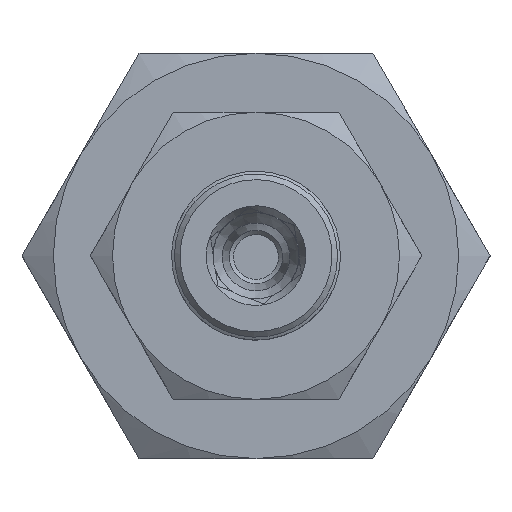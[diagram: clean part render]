
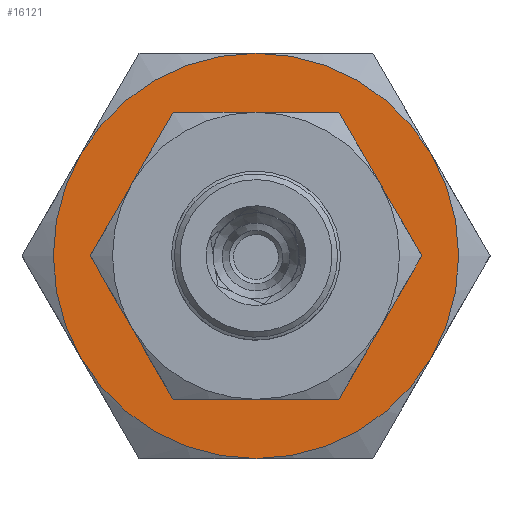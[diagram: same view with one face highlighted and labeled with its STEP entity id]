
A CAD part, top view. The second image highlights one B-rep face of the part: STEP entity #16121.
In plain terms, the highlighted planar face has unit normal (0, 0, 1).
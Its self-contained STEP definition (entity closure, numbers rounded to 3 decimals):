
#513 = VERTEX_POINT ( 'NONE', #9415 ) ;
#893 = CIRCLE ( 'NONE', #10487, 12. ) ;
#1329 = CARTESIAN_POINT ( 'NONE',  ( 0., 0., 4.8 ) ) ;
#1457 = ORIENTED_EDGE ( 'NONE', *, *, #7018, .F. ) ;
#1622 = VERTEX_POINT ( 'NONE', #10881 ) ;
#1634 = CIRCLE ( 'NONE', #11224, 12. ) ;
#2352 = CARTESIAN_POINT ( 'NONE',  ( 0., 0., 4.8 ) ) ;
#2873 = AXIS2_PLACEMENT_3D ( 'NONE', #16518, #4440, #4781 ) ;
#3100 = AXIS2_PLACEMENT_3D ( 'NONE', #1329, #6568, #13191 ) ;
#3287 = CIRCLE ( 'NONE', #13969, 12. ) ;
#3318 = VERTEX_POINT ( 'NONE', #15162 ) ;
#3326 = DIRECTION ( 'NONE',  ( 0., 0., -1. ) ) ;
#3652 = DIRECTION ( 'NONE',  ( 0., 0., -1. ) ) ;
#3813 = DIRECTION ( 'NONE',  ( -1., 0., 0. ) ) ;
#4082 = VERTEX_POINT ( 'NONE', #7957 ) ;
#4440 = DIRECTION ( 'NONE',  ( 0., 0., -1. ) ) ;
#4781 = DIRECTION ( 'NONE',  ( -1., 0., 0. ) ) ;
#4892 = CARTESIAN_POINT ( 'NONE',  ( 0., 0., 4.8 ) ) ;
#4969 = CARTESIAN_POINT ( 'NONE',  ( 0., 0., 4.8 ) ) ;
#5058 = DIRECTION ( 'NONE',  ( -1., 0., 0. ) ) ;
#5378 = EDGE_CURVE ( 'NONE', #513, #14310, #1634, .T. ) ;
#6409 = CARTESIAN_POINT ( 'NONE',  ( 10.392, 6., 4.8 ) ) ;
#6568 = DIRECTION ( 'NONE',  ( 0., 0., -1. ) ) ;
#6657 = AXIS2_PLACEMENT_3D ( 'NONE', #4892, #14048, #10097 ) ;
#7018 = EDGE_CURVE ( 'NONE', #3318, #513, #16639, .T. ) ;
#7575 = DIRECTION ( 'NONE',  ( -1., 0., 0. ) ) ;
#7851 = VERTEX_POINT ( 'NONE', #6409 ) ;
#7957 = CARTESIAN_POINT ( 'NONE',  ( 0., 12., 4.8 ) ) ;
#8365 = FACE_BOUND ( 'NONE', #14966, .T. ) ;
#8635 = DIRECTION ( 'NONE',  ( -1., 0., 0. ) ) ;
#9415 = CARTESIAN_POINT ( 'NONE',  ( 0., -12., 4.8 ) ) ;
#9933 = EDGE_CURVE ( 'NONE', #14407, #4082, #3287, .T. ) ;
#10095 = DIRECTION ( 'NONE',  ( 0., 0., -1. ) ) ;
#10097 = DIRECTION ( 'NONE',  ( -1., 0., 0. ) ) ;
#10187 = CIRCLE ( 'NONE', #3100, 5. ) ;
#10487 = AXIS2_PLACEMENT_3D ( 'NONE', #11238, #15109, #8635 ) ;
#10527 = CARTESIAN_POINT ( 'NONE',  ( -10.392, 6., 4.8 ) ) ;
#10881 = CARTESIAN_POINT ( 'NONE',  ( -5., 0., 4.8 ) ) ;
#11224 = AXIS2_PLACEMENT_3D ( 'NONE', #4969, #3652, #7575 ) ;
#11238 = CARTESIAN_POINT ( 'NONE',  ( 0., 0., 4.8 ) ) ;
#11707 = DIRECTION ( 'NONE',  ( 0., 0., -1. ) ) ;
#11753 = ORIENTED_EDGE ( 'NONE', *, *, #15093, .F. ) ;
#12316 = ORIENTED_EDGE ( 'NONE', *, *, #5378, .F. ) ;
#12577 = PLANE ( 'NONE',  #2873 ) ;
#12696 = ORIENTED_EDGE ( 'NONE', *, *, #14800, .F. ) ;
#13191 = DIRECTION ( 'NONE',  ( -1., 0., 0. ) ) ;
#13365 = AXIS2_PLACEMENT_3D ( 'NONE', #15429, #10095, #5058 ) ;
#13503 = CARTESIAN_POINT ( 'NONE',  ( -10.392, -6., 4.8 ) ) ;
#13531 = CIRCLE ( 'NONE', #14352, 12. ) ;
#13616 = FACE_OUTER_BOUND ( 'NONE', #15602, .T. ) ;
#13701 = ORIENTED_EDGE ( 'NONE', *, *, #9933, .F. ) ;
#13779 = DIRECTION ( 'NONE',  ( -1., 0., 0. ) ) ;
#13969 = AXIS2_PLACEMENT_3D ( 'NONE', #15165, #3326, #13779 ) ;
#14048 = DIRECTION ( 'NONE',  ( 0., 0., -1. ) ) ;
#14310 = VERTEX_POINT ( 'NONE', #13503 ) ;
#14352 = AXIS2_PLACEMENT_3D ( 'NONE', #2352, #11707, #3813 ) ;
#14365 = EDGE_CURVE ( 'NONE', #1622, #1622, #10187, .T. ) ;
#14407 = VERTEX_POINT ( 'NONE', #10527 ) ;
#14800 = EDGE_CURVE ( 'NONE', #7851, #3318, #893, .T. ) ;
#14966 = EDGE_LOOP ( 'NONE', ( #16018 ) ) ;
#15037 = ORIENTED_EDGE ( 'NONE', *, *, #15381, .F. ) ;
#15093 = EDGE_CURVE ( 'NONE', #4082, #7851, #15699, .T. ) ;
#15109 = DIRECTION ( 'NONE',  ( 0., 0., -1. ) ) ;
#15162 = CARTESIAN_POINT ( 'NONE',  ( 10.392, -6., 4.8 ) ) ;
#15165 = CARTESIAN_POINT ( 'NONE',  ( 0., 0., 4.8 ) ) ;
#15381 = EDGE_CURVE ( 'NONE', #14310, #14407, #13531, .T. ) ;
#15429 = CARTESIAN_POINT ( 'NONE',  ( 0., 0., 4.8 ) ) ;
#15602 = EDGE_LOOP ( 'NONE', ( #13701, #15037, #12316, #1457, #12696, #11753 ) ) ;
#15699 = CIRCLE ( 'NONE', #6657, 12. ) ;
#16018 = ORIENTED_EDGE ( 'NONE', *, *, #14365, .T. ) ;
#16121 = ADVANCED_FACE ( 'NONE', ( #8365, #13616 ), #12577, .F. ) ;
#16518 = CARTESIAN_POINT ( 'NONE',  ( 13.856, 0., 4.8 ) ) ;
#16639 = CIRCLE ( 'NONE', #13365, 12. ) ;
